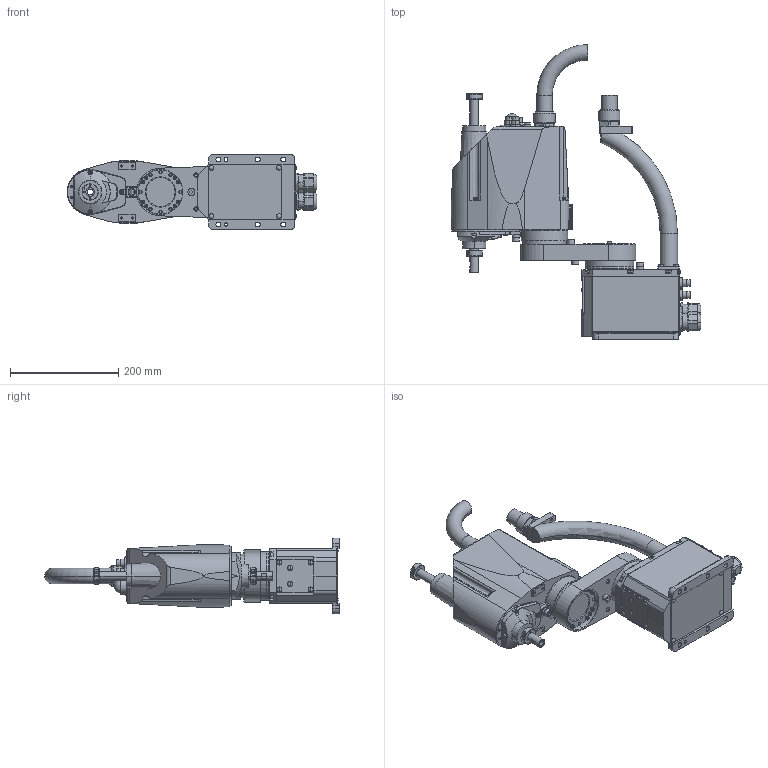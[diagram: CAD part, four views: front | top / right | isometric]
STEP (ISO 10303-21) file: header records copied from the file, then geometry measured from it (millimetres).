
FILE_DESCRIPTION( ( '' ), '1' );
FILE_NAME( '//expscmdclustefs.cadenas.external/client_exchange/iodir/jobs/output/wkb51505741_no0/STEP/G3_251S_2_14b.stp', '2012-11-22T13:30:27', ( '' ), ( '' ), ' ', ' ', ' ' );
FILE_SCHEMA( ( 'automotive_design' ) );
Length unit declared in the file: millimetre
Products named in the file (4): 1; 2; 3; 4
Bounding box: 461.5 x 545 x 140 mm (x, y, z)
Volume: 7367895.3 mm3; surface area: 507077.7 mm2
Topology: 4 solids, 4 shells, 1816 faces, 4487 edges, 2877 vertices
Faces by surface type: plane 847, cylinder 659, cone 195, torus 78, sphere 37
Entity records: 106763 total; most frequent: CARTESIAN_POINT 11047, DIRECTION 9774, STYLED_ITEM 9148, PRESENTATION_STYLE_ASSIGNMENT 9148, COLOUR_RGB 9148, ORIENTED_EDGE 8902, EDGE_CURVE 4451, CURVE_STYLE 4451
